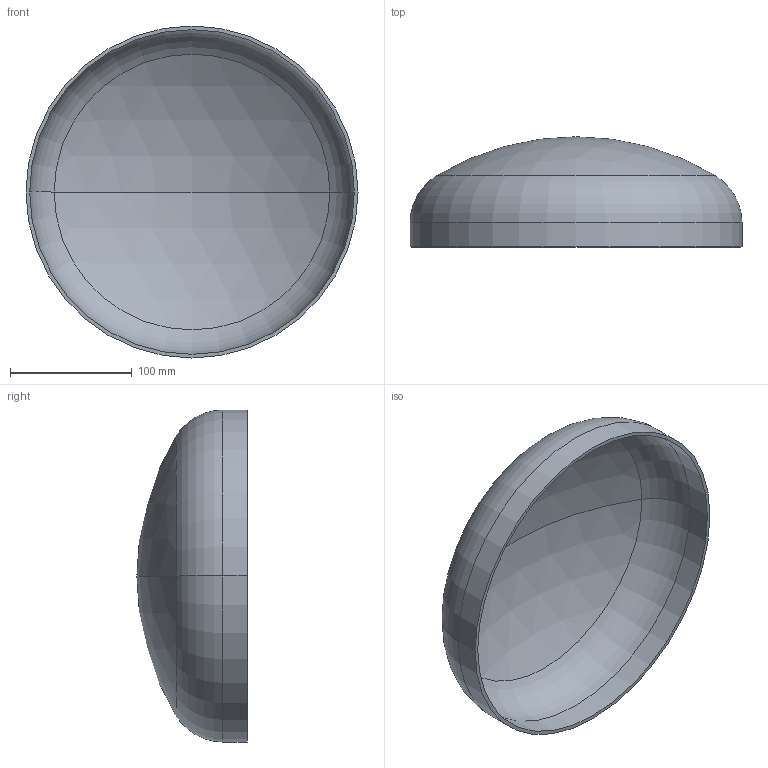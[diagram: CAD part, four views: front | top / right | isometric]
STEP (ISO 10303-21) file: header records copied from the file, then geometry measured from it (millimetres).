
FILE_DESCRIPTION (( 'STEP AP203' ), '1' );
FILE_NAME ('DIN 28013 Korbbogenform_-_Boden DIN 28013 - 273 x 20 - I - s=3.step', '2016-07-01T07:42:50', ( '' ), ( '' ), 'SwSTEP 2.0', 'SolidWorks 2013', '' );
FILE_SCHEMA (( 'CONFIG_CONTROL_DESIGN' ));
Length unit declared in the file: millimetre
Products named in the file (1): DIN 28013 Korbbogenform_-_Boden DIN 28013 - 273 x 20 - I - s=3
Bounding box: 273 x 90.65 x 273 mm (x, y, z)
Volume: 290589.1 mm3; surface area: 196289.6 mm2
Topology: 1 solids, 1 shells, 13 faces, 24 edges, 14 vertices
Faces by surface type: torus 4, cylinder 4, sphere 4, plane 1
Entity records: 407 total; most frequent: DIRECTION 72, CARTESIAN_POINT 52, ORIENTED_EDGE 48, AXIS2_PLACEMENT_3D 34, EDGE_CURVE 24, CIRCLE 20, VERTEX_POINT 14, EDGE_LOOP 14
